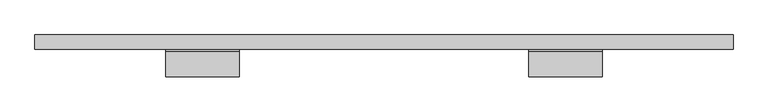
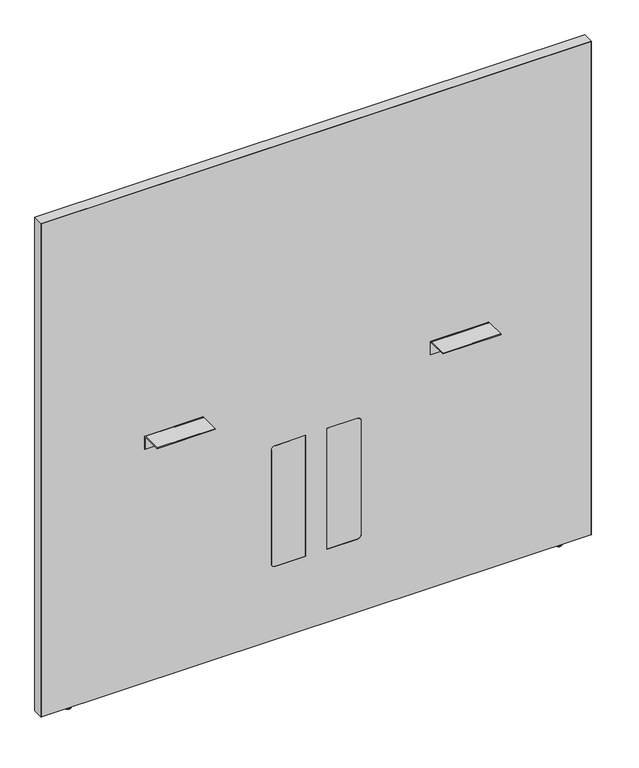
"""IFC4 building model written with IfcOpenShell, lengths in millimetres: furniture geometry, Steelcase - Answer Solution - Boundary Screen - Straight - Spanning : 54H x 57W."""

from ifc_helpers import new_model, si_unit, point, frame, frame_2d, origin, place, context, project, spatial, polyline, circle_curve, ellipse_curve, trimmed, segment, composite_curve, outline, extrude, source, transform, mapped, element, save
from ifc_brep_helpers import plane_surface, cylinder_surface, revolved_surface, advanced_brep


def furniture_cc3077df(model_context):
    return source(origin(), model_context, "Body", "SolidModel", [
        advanced_brep(
        [(-416.8902705, -14.8449166, 9.9059849), (-416.8902705, -5.9309607, 9.9059849), (-416.8902705, -23.7588726, 9.9059849), (-416.8902705, -5.9309607, 2.9673238), (-416.8902705, -23.7588726, 2.9673238), (-416.8902705, -6.8982978, 2.9673238), (-416.8902705, -22.7915354, 2.9673238), (-416.8902705, -6.8982978, 1.6569081), (-416.8902705, -22.7915354, 1.6569081), (-416.8902705, -8.5552059, 0.0), (-416.8902705, -21.1346274, 0.0), (-416.8902705, -14.8449166, 0.0)],
        [
            (0, 1),
            (1, 2, circle_curve(frame((-416.8902705, -14.8449166, 9.9059849), z_axis=(0.0, 0.0, 1.0), x_axis=(0.0, 1.0, 0.0)), 8.913956)),
            (2, 0),
            (2, 1, circle_curve(frame((-416.8902705, -14.8449166, 9.9059849), z_axis=(0.0, 0.0, 1.0), x_axis=(0.0, 1.0, 0.0)), 8.913956)),
            (1, 3),
            (3, 4, circle_curve(frame((-416.8902705, -14.8449166, 2.9673238), z_axis=(0.0, 0.0, 1.0), x_axis=(0.0, 1.0, 0.0)), 8.913956)),
            (4, 2),
            (4, 3, circle_curve(frame((-416.8902705, -14.8449166, 2.9673238), z_axis=(0.0, 0.0, 1.0), x_axis=(0.0, 1.0, 0.0)), 8.913956)),
            (3, 5),
            (5, 6, circle_curve(frame((-416.8902705, -14.8449166, 2.9673238), z_axis=(0.0, 0.0, 1.0), x_axis=(0.0, 1.0, 0.0)), 7.9466188)),
            (6, 4),
            (6, 5, circle_curve(frame((-416.8902705, -14.8449166, 2.9673238), z_axis=(0.0, 0.0, 1.0), x_axis=(0.0, 1.0, 0.0)), 7.9466188)),
            (5, 7),
            (7, 8, circle_curve(frame((-416.8902705, -14.8449166, 1.6569081), z_axis=(0.0, 0.0, 1.0), x_axis=(0.0, 1.0, 0.0)), 7.9466188)),
            (8, 6),
            (8, 7, circle_curve(frame((-416.8902705, -14.8449166, 1.6569081), z_axis=(0.0, 0.0, 1.0), x_axis=(0.0, 1.0, 0.0)), 7.9466188)),
            (7, 9, circle_curve(frame((-416.8902705, -8.5552059, 1.6569081), z_axis=(-1.0, 0.0, 0.0), x_axis=(0.0, 1.0, 0.0)), 1.6569081)),
            (9, 10, circle_curve(frame((-416.8902705, -14.8449166, 0.0), z_axis=(0.0, 0.0, 1.0), x_axis=(0.0, 1.0, 0.0)), 6.2897107)),
            (10, 8, circle_curve(frame((-416.8902705, -21.1346274, 1.6569081), z_axis=(-1.0, 0.0, 0.0), x_axis=(0.0, -1.0, 0.0)), 1.6569081)),
            (10, 9, circle_curve(frame((-416.8902705, -14.8449166, 0.0), z_axis=(0.0, 0.0, 1.0), x_axis=(0.0, 1.0, 0.0)), 6.2897107)),
            (9, 11),
            (11, 10),
        ],
        [
            plane_surface(frame((-416.8902705, -14.8449166, 9.9059849), z_axis=(0.0, 0.0, 1.0), x_axis=(0.0, 1.0, 0.0))),
            cylinder_surface(frame((-416.8902705, -14.8449166, 9.9059849), z_axis=(0.0, 0.0, 1.0), x_axis=(0.0, 1.0, 0.0)), 8.913956),
            plane_surface(frame((-416.8902705, -14.8449166, 2.9673238), z_axis=(0.0, 0.0, -1.0), x_axis=(0.0, 1.0, 0.0))),
            cylinder_surface(frame((-416.8902705, -14.8449166, 9.9059849), z_axis=(0.0, 0.0, 1.0), x_axis=(0.0, 1.0, 0.0)), 7.9466188),
            revolved_surface(trimmed(ellipse_curve(frame((-416.8902705, -8.5552059, 1.6569081), z_axis=(1.0, 0.0, 0.0), x_axis=(0.0, 1.0, 0.0)), 1.6569081, 1.6569081), [point((-416.8902705, -8.5552059, 0.0))], [point((-416.8902705, -6.8982978, 1.6569081))], True, "CARTESIAN"), (-416.8902705, -14.8449166, 9.9059849), (0.0, 0.0, 1.0)),
            plane_surface(frame((-416.8902705, -14.8449166, 0.0), z_axis=(0.0, 0.0, -1.0), x_axis=(0.0, 1.0, 0.0))),
        ],
        [
            (0, [[1, 2, 3]]),
            (0, [[-3, 4, -1]]),
            (1, [[-2, 5, 6, 7]]),
            (1, [[-4, -7, 8, -5]]),
            (2, [[-6, 9, 10, 11]]),
            (2, [[-8, -11, 12, -9]]),
            (3, [[-10, 13, 14, 15]]),
            (3, [[-12, -15, 16, -13]]),
            (4, [[-14, 17, 18, 19]]),
            (4, [[-16, -19, 20, -17]]),
            (5, [[-18, 21, 22]]),
            (5, [[-20, -22, -21]]),
        ],
    ),
        extrude(outline(composite_curve([segment(polyline([(-86.8398151, 696.4680019), (-86.8398151, 698.5), (-34.9450855, 698.5)]), True, "CONTINUOUS"), segment(trimmed(circle_curve(frame_2d((-34.9450855, 693.2447477)), 5.2552523), [point((-34.9450855, 698.5))], [point((-29.6898332, 693.2447477))], False, "CARTESIAN"), True, "CONTINUOUS"), segment(polyline([(-29.6898332, 693.2447477), (-29.6898332, 660.4), (-31.7218162, 660.4), (-31.7218162, 693.0058743)]), True, "CONTINUOUS"), segment(trimmed(circle_curve(frame_2d((-35.1839438, 693.0058743)), 3.4621276), [point((-31.7218162, 693.0058743))], [point((-35.1839438, 696.4680019))], True, "CARTESIAN"), True, "CONTINUOUS"), segment(polyline([(-35.1839438, 696.4680019), (-86.8398151, 696.4680019)]), True, "CONTINUOUS")], self_intersect=False)), frame((529.7282189, 0.0, 0.0), z_axis=(1.0, 0.0, 0.0), x_axis=(0.0, 1.0, 0.0)), (0.0, 0.0, 1.0), 152.4000969),
        extrude(outline(composite_curve([segment(polyline([(-86.8398151, 696.4680019), (-86.8398151, 698.5), (-34.9450855, 698.5)]), True, "CONTINUOUS"), segment(trimmed(circle_curve(frame_2d((-34.9450855, 693.2447477)), 5.2552523), [point((-34.9450855, 698.5))], [point((-29.6898332, 693.2447477))], False, "CARTESIAN"), True, "CONTINUOUS"), segment(polyline([(-29.6898332, 693.2447477), (-29.6898332, 660.4), (-31.7218162, 660.4), (-31.7218162, 693.0058743)]), True, "CONTINUOUS"), segment(trimmed(circle_curve(frame_2d((-35.1839438, 693.0058743)), 3.4621276), [point((-31.7218162, 693.0058743))], [point((-35.1839438, 696.4680019))], True, "CARTESIAN"), True, "CONTINUOUS"), segment(polyline([(-35.1839438, 696.4680019), (-86.8398151, 696.4680019)]), True, "CONTINUOUS")], self_intersect=False)), frame((-222.4884581, 0.0, 0.0), z_axis=(1.0, 0.0, 0.0), x_axis=(0.0, 1.0, 0.0)), (0.0, 0.0, 1.0), 152.4000969),
        advanced_brep(
        [(876.5286488, -23.7588726, 9.9059849), (876.5286488, -5.9309607, 9.9059849), (876.5286488, -14.8449166, 9.9059849), (876.5286488, -23.7588726, 2.9673238), (876.5286488, -5.9309607, 2.9673238), (876.5286488, -22.7915354, 2.9673238), (876.5286488, -6.8982978, 2.9673238), (876.5286488, -22.7915354, 1.6569081), (876.5286488, -6.8982978, 1.6569081), (876.5286488, -21.1346274, 0.0), (876.5286488, -8.5552059, 0.0), (876.5286488, -14.8449166, 0.0)],
        [
            (0, 1, circle_curve(frame((876.5286488, -14.8449166, 9.9059849), z_axis=(0.0, 0.0, 1.0), x_axis=(0.0, 1.0, 0.0)), 8.913956)),
            (1, 2),
            (2, 0),
            (1, 0, circle_curve(frame((876.5286488, -14.8449166, 9.9059849), z_axis=(0.0, 0.0, 1.0), x_axis=(0.0, 1.0, 0.0)), 8.913956)),
            (3, 4, circle_curve(frame((876.5286488, -14.8449166, 2.9673238), z_axis=(0.0, 0.0, 1.0), x_axis=(0.0, 1.0, 0.0)), 8.913956)),
            (4, 1),
            (0, 3),
            (4, 3, circle_curve(frame((876.5286488, -14.8449166, 2.9673238), z_axis=(0.0, 0.0, 1.0), x_axis=(0.0, 1.0, 0.0)), 8.913956)),
            (5, 6, circle_curve(frame((876.5286488, -14.8449166, 2.9673238), z_axis=(0.0, 0.0, 1.0), x_axis=(0.0, 1.0, 0.0)), 7.9466188)),
            (6, 4),
            (3, 5),
            (6, 5, circle_curve(frame((876.5286488, -14.8449166, 2.9673238), z_axis=(0.0, 0.0, 1.0), x_axis=(0.0, 1.0, 0.0)), 7.9466188)),
            (7, 8, circle_curve(frame((876.5286488, -14.8449166, 1.6569081), z_axis=(0.0, 0.0, 1.0), x_axis=(0.0, 1.0, 0.0)), 7.9466188)),
            (8, 6),
            (5, 7),
            (8, 7, circle_curve(frame((876.5286488, -14.8449166, 1.6569081), z_axis=(0.0, 0.0, 1.0), x_axis=(0.0, 1.0, 0.0)), 7.9466188)),
            (9, 10, circle_curve(frame((876.5286488, -14.8449166, 0.0), z_axis=(0.0, 0.0, 1.0), x_axis=(0.0, 1.0, 0.0)), 6.2897107)),
            (10, 8, circle_curve(frame((876.5286488, -8.5552059, 1.6569081), z_axis=(1.0, 0.0, 0.0), x_axis=(0.0, 1.0, 0.0)), 1.6569081)),
            (7, 9, circle_curve(frame((876.5286488, -21.1346274, 1.6569081), z_axis=(1.0, 0.0, 0.0), x_axis=(0.0, -1.0, 0.0)), 1.6569081)),
            (10, 9, circle_curve(frame((876.5286488, -14.8449166, 0.0), z_axis=(0.0, 0.0, 1.0), x_axis=(0.0, 1.0, 0.0)), 6.2897107)),
            (11, 10),
            (9, 11),
        ],
        [
            plane_surface(frame((876.5286488, -14.8449166, 9.9059849), z_axis=(0.0, 0.0, 1.0), x_axis=(0.0, 1.0, 0.0))),
            cylinder_surface(frame((876.5286488, -14.8449166, 9.9059849), z_axis=(0.0, 0.0, -1.0), x_axis=(0.0, 1.0, 0.0)), 8.913956),
            plane_surface(frame((876.5286488, -14.8449166, 2.9673238), z_axis=(0.0, 0.0, -1.0), x_axis=(0.0, 1.0, 0.0))),
            cylinder_surface(frame((876.5286488, -14.8449166, 9.9059849), z_axis=(0.0, 0.0, -1.0), x_axis=(0.0, 1.0, 0.0)), 7.9466188),
            revolved_surface(trimmed(ellipse_curve(frame((876.5286488, -8.5552059, 1.6569081), z_axis=(-1.0, 0.0, 0.0), x_axis=(0.0, 1.0, 0.0)), 1.6569081, 1.6569081), [point((876.5286488, -6.8982978, 1.6569081))], [point((876.5286488, -8.5552059, 0.0))], True, "CARTESIAN"), (876.5286488, -14.8449166, 9.9059849), (0.0, 0.0, -1.0)),
            plane_surface(frame((876.5286488, -14.8449166, 0.0), z_axis=(0.0, 0.0, -1.0), x_axis=(0.0, 1.0, 0.0))),
        ],
        [
            (0, [[1, 2, 3]]),
            (0, [[4, -3, -2]]),
            (1, [[5, 6, -1, 7]]),
            (1, [[8, -7, -4, -6]]),
            (2, [[9, 10, -5, 11]]),
            (2, [[12, -11, -8, -10]]),
            (3, [[13, 14, -9, 15]]),
            (3, [[16, -15, -12, -14]]),
            (4, [[17, 18, -13, 19]]),
            (4, [[20, -19, -16, -18]]),
            (5, [[21, -17, 22]]),
            (5, [[-22, -20, -21]]),
        ],
    ),
        advanced_brep(
        [(952.6780168, 0.0, 1381.542118), (952.6780168, 0.0, 9.9059849), (-493.0902221, 0.0, 9.9059849), (-493.0902221, 0.0, 1381.542118), (952.6780168, -29.6898332, 1381.542118), (-493.0902221, -29.6898332, 1381.542118), (-493.0902221, -29.6898332, 9.9059849), (952.6780168, -29.6898332, 9.9059849), (337.7883813, -29.6898332, 549.6162029), (347.9483813, -29.6898332, 539.4562029), (347.9483813, -29.6898332, 223.9362137), (337.7883813, -29.6898332, 213.7762137), (258.1344836, -29.6898332, 213.7762137), (258.1344836, -29.6898332, 549.6162029), (121.849997, -29.6898332, 549.6162029), (201.5038947, -29.6898332, 549.6162029), (201.5038947, -29.6898332, 213.7762137), (121.849997, -29.6898332, 213.7762137), (111.689997, -29.6898332, 223.9362137), (111.689997, -29.6898332, 539.4562029), (258.1344836, -29.0550397, 549.6162029), (337.7883813, -29.0550397, 549.6162029), (258.1344836, -29.0550397, 213.7762137), (337.7883813, -29.0550397, 213.7762137), (347.9483813, -29.0550397, 223.9362137), (347.9483813, -29.0550397, 539.4562029), (121.849997, -29.0550397, 549.6162029), (111.689997, -29.0550397, 539.4562029), (111.689997, -29.0550397, 223.9362137), (121.849997, -29.0550397, 213.7762137), (201.5038947, -29.0550397, 213.7762137), (201.5038947, -29.0550397, 549.6162029)],
        [
            (0, 1),
            (1, 2),
            (2, 3),
            (3, 0),
            (4, 5),
            (5, 6),
            (6, 7),
            (7, 4),
            (8, 9, circle_curve(frame((337.7883813, -29.6898332, 539.4562029), z_axis=(0.0, 1.0, 0.0), x_axis=(0.0, 0.0, 1.0)), 10.16)),
            (9, 10),
            (10, 11, circle_curve(frame((337.7883813, -29.6898332, 223.9362137), z_axis=(0.0, 1.0, 0.0), x_axis=(0.0, 0.0, 1.0)), 10.16)),
            (11, 12),
            (12, 13),
            (13, 8),
            (14, 15),
            (15, 16),
            (16, 17),
            (17, 18, circle_curve(frame((121.849997, -29.6898332, 223.9362137), z_axis=(0.0, 1.0, 0.0), x_axis=(0.0, 0.0, 1.0)), 10.16)),
            (18, 19),
            (19, 14, circle_curve(frame((121.849997, -29.6898332, 539.4562029), z_axis=(0.0, 1.0, 0.0), x_axis=(0.0, 0.0, 1.0)), 10.16)),
            (0, 4),
            (7, 1),
            (6, 2),
            (5, 3),
            (13, 20),
            (20, 21),
            (21, 8),
            (12, 22),
            (22, 20),
            (11, 23),
            (23, 22),
            (10, 24),
            (24, 23, circle_curve(frame((337.7883813, -29.0550397, 223.9362137), z_axis=(0.0, 1.0, 0.0), x_axis=(0.0, 0.0, 1.0)), 10.16)),
            (9, 25),
            (25, 24),
            (21, 25, circle_curve(frame((337.7883813, -29.0550397, 539.4562029), z_axis=(0.0, 1.0, 0.0), x_axis=(0.0, 0.0, 1.0)), 10.16)),
            (26, 27, circle_curve(frame((121.849997, -29.0550397, 539.4562029), z_axis=(0.0, -1.0, 0.0), x_axis=(0.0, 0.0, 1.0)), 10.16)),
            (27, 28),
            (28, 29, circle_curve(frame((121.849997, -29.0550397, 223.9362137), z_axis=(0.0, -1.0, 0.0), x_axis=(0.0, 0.0, 1.0)), 10.16)),
            (29, 30),
            (30, 31),
            (31, 26),
            (19, 27),
            (26, 14),
            (18, 28),
            (17, 29),
            (16, 30),
            (15, 31),
        ],
        [
            plane_surface(frame((952.6780168, 0.0, 1381.542118), z_axis=(0.0, 1.0, 0.0), x_axis=(0.0, 0.0, -1.0))),
            plane_surface(frame((952.6780168, -29.6898332, 1381.542118), z_axis=(0.0, -1.0, 0.0), x_axis=(0.0, 0.0, 1.0))),
            plane_surface(frame((952.6780168, 0.0, 1381.542118), z_axis=(1.0, 0.0, 0.0), x_axis=(0.0, -1.0, 0.0))),
            plane_surface(frame((952.6780168, 0.0, 9.9059849), z_axis=(0.0, 0.0, -1.0), x_axis=(0.0, -1.0, 0.0))),
            plane_surface(frame((-493.0902221, 0.0, 9.9059849), z_axis=(-1.0, 0.0, 0.0), x_axis=(0.0, -1.0, 0.0))),
            plane_surface(frame((-493.0902221, 0.0, 1381.542118), z_axis=(0.0, 0.0, 1.0), x_axis=(0.0, -1.0, 0.0))),
            plane_surface(frame((337.7883813, 0.0, 549.6162029), z_axis=(0.0, 0.0, -1.0), x_axis=(0.0, -1.0, 0.0))),
            plane_surface(frame((258.1344836, 0.0, 549.6162029), z_axis=(1.0, 0.0, 0.0), x_axis=(0.0, -1.0, 0.0))),
            plane_surface(frame((258.1344836, 0.0, 213.7762137), z_axis=(0.0, 0.0, 1.0), x_axis=(0.0, -1.0, 0.0))),
            revolved_surface(polyline([(337.7883813, -29.6898332, 234.0962137), (337.7883813, -29.0550397, 234.0962137)]), (337.7883813, -29.6898332, 223.9362137), (0.0, -1.0, 0.0)),
            plane_surface(frame((347.9483813, 0.0, 223.9362137), z_axis=(-1.0, 0.0, 0.0), x_axis=(0.0, -1.0, 0.0))),
            revolved_surface(polyline([(337.7883813, -29.6898332, 549.6162029), (337.7883813, -29.0550397, 549.6162029)]), (337.7883813, -29.6898332, 539.4562029), (0.0, -1.0, 0.0)),
            plane_surface(frame((347.9483813, -29.0550397, 549.6162029), z_axis=(0.0, -1.0, 0.0), x_axis=(0.0, 0.0, 1.0))),
            revolved_surface(polyline([(121.849997, -29.6898332, 549.6162029), (121.849997, -29.0550397, 549.6162029)]), (121.849997, -29.6898332, 539.4562029), (0.0, -1.0, 0.0)),
            plane_surface(frame((111.689997, 0.0, 539.4562029), z_axis=(1.0, 0.0, 0.0), x_axis=(0.0, -1.0, 0.0))),
            revolved_surface(polyline([(121.849997, -29.6898332, 234.0962137), (121.849997, -29.0550397, 234.0962137)]), (121.849997, -29.6898332, 223.9362137), (0.0, -1.0, 0.0)),
            plane_surface(frame((121.849997, 0.0, 213.7762137), z_axis=(0.0, 0.0, 1.0), x_axis=(0.0, -1.0, 0.0))),
            plane_surface(frame((201.5038947, 0.0, 213.7762137), z_axis=(-1.0, 0.0, 0.0), x_axis=(0.0, -1.0, 0.0))),
            plane_surface(frame((201.5038947, 0.0, 549.6162029), z_axis=(0.0, 0.0, -1.0), x_axis=(0.0, -1.0, 0.0))),
        ],
        [
            (0, [[1, 2, 3, 4]]),
            (1, [[5, 6, 7, 8], [9, 10, 11, 12, 13, 14], [15, 16, 17, 18, 19, 20]]),
            (2, [[-1, 21, -8, 22]]),
            (3, [[-2, -22, -7, 23]]),
            (4, [[-3, -23, -6, 24]]),
            (5, [[-4, -24, -5, -21]]),
            (6, [[-14, 25, 26, 27]]),
            (7, [[-13, 28, 29, -25]]),
            (8, [[-12, 30, 31, -28]]),
            (9, [[-11, 32, 33, -30]]),
            (10, [[-10, 34, 35, -32]]),
            (11, [[-9, -27, 36, -34]]),
            (12, [[-26, -29, -31, -33, -35, -36]]),
            (12, [[37, 38, 39, 40, 41, 42]]),
            (13, [[-20, 43, -37, 44]]),
            (14, [[-19, 45, -38, -43]]),
            (15, [[-18, 46, -39, -45]]),
            (16, [[-17, 47, -40, -46]]),
            (17, [[-16, 48, -41, -47]]),
            (18, [[-15, -44, -42, -48]]),
        ],
    ),
        extrude(outline(composite_curve([segment(polyline([(549.6162029, 337.7883813), (549.6162029, 258.1344836), (213.7762137, 258.1344836), (213.7762137, 337.7883813)]), True, "CONTINUOUS"), segment(trimmed(circle_curve(frame_2d((223.9362137, 337.7883813)), 10.16), [point((213.7762137, 337.7883813))], [point((223.9362137, 347.9483813))], False, "CARTESIAN"), True, "CONTINUOUS"), segment(polyline([(223.9362137, 347.9483813), (539.4562029, 347.9483813)]), True, "CONTINUOUS"), segment(trimmed(circle_curve(frame_2d((539.4562029, 337.7883813)), 10.16), [point((539.4562029, 347.9483813))], [point((549.6162029, 337.7883813))], False, "CARTESIAN"), True, "CONTINUOUS")], self_intersect=False)), frame((0.0, -29.6898332, 0.0), z_axis=(0.0, 1.0, 0.0), x_axis=(0.0, 0.0, 1.0)), (0.0, 0.0, 1.0), 0.6347935),
        extrude(outline(composite_curve([segment(trimmed(circle_curve(frame_2d((539.4562029, 121.849997)), 10.16), [point((549.6162029, 121.849997))], [point((539.4562029, 111.689997))], False, "CARTESIAN"), True, "CONTINUOUS"), segment(polyline([(539.4562029, 111.689997), (223.9362137, 111.689997)]), True, "CONTINUOUS"), segment(trimmed(circle_curve(frame_2d((223.9362137, 121.849997)), 10.16), [point((223.9362137, 111.689997))], [point((213.7762137, 121.849997))], False, "CARTESIAN"), True, "CONTINUOUS"), segment(polyline([(213.7762137, 121.849997), (213.7762137, 201.5038947), (549.6162029, 201.5038947), (549.6162029, 121.849997)]), True, "CONTINUOUS")], self_intersect=False)), frame((0.0, -29.6898332, 0.0), z_axis=(0.0, 1.0, 0.0), x_axis=(0.0, 0.0, 1.0)), (0.0, 0.0, 1.0), 0.6347935),
        extrude(outline(polyline([(1382.522, 953.7191891), (1382.522, -494.0808109), (9.9059849, -494.0808109), (9.9059849, -493.0902221), (1381.542118, -493.0902221), (1381.542118, 952.6780168), (9.9059849, 952.6780168), (9.9059849, 953.7191891), (1382.522, 953.7191891)])), frame((0.0, -29.6898332, 0.0), z_axis=(0.0, 1.0, 0.0), x_axis=(0.0, 0.0, 1.0)), (0.0, 0.0, 1.0), 29.6898332),
    ])


if __name__ == "__main__":
    model = new_model("IFC4")
    model_context = context("Model", 3, world=origin())
    ifc_project = project(units=[si_unit("LENGTHUNIT", "METRE", prefix="MILLI")], contexts=[model_context])
    site = spatial("IfcSite", under=ifc_project)
    building = spatial("IfcBuilding", under=site)
    placement = place(None, origin())
    furniture_shape = furniture_cc3077df(model_context)
    element("IfcFurniture", 1, ObjectType="Steelcase - Answer Solution - Boundary Screen - Straight - Spanning : 54H x 57W", at=placement, inside=building, context=model_context, shape_type="MappedRepresentation", body=[
        mapped(furniture_shape, transform((0.0, 0.0, 0.0), x_axis=(1.0, 0.0, 0.0), y_axis=(0.0, 1.0, 0.0), z_axis=(0.0, 0.0, 1.0))),
    ])
    save(model, "model.ifc")
